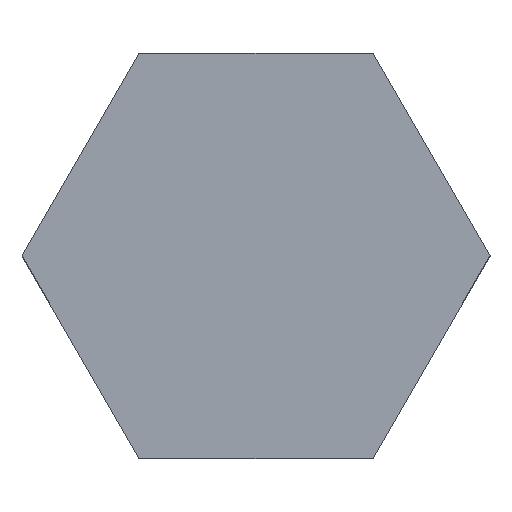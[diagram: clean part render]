
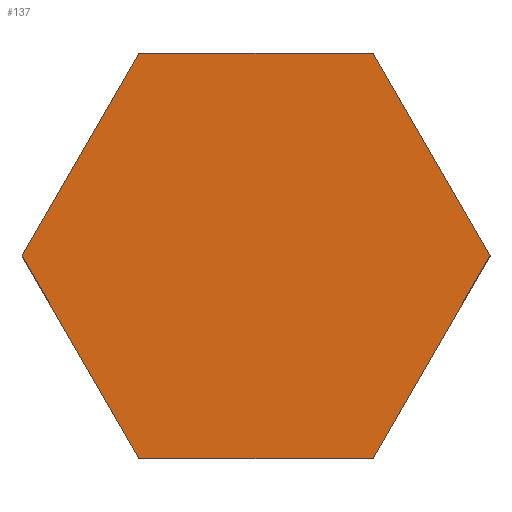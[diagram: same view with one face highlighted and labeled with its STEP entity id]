
A CAD part, top view. The second image highlights one B-rep face of the part: STEP entity #137.
In plain terms, the highlighted planar face has unit normal (0, 0, 1).
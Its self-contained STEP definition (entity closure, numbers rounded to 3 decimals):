
#24 = VERTEX_POINT('',#25);
#25 = CARTESIAN_POINT('',(4.619,0.,3.5));
#32 = PLANE('',#33);
#33 = AXIS2_PLACEMENT_3D('',#34,#35,#36);
#34 = CARTESIAN_POINT('',(4.619,0.,0.));
#35 = DIRECTION('',(-0.866,-0.5,0.));
#36 = DIRECTION('',(-0.5,0.866,0.));
#44 = PLANE('',#45);
#45 = AXIS2_PLACEMENT_3D('',#46,#47,#48);
#46 = CARTESIAN_POINT('',(2.309,-4.,0.));
#47 = DIRECTION('',(-0.866,0.5,0.));
#48 = DIRECTION('',(0.5,0.866,0.));
#56 = EDGE_CURVE('',#24,#57,#59,.T.);
#57 = VERTEX_POINT('',#58);
#58 = CARTESIAN_POINT('',(2.309,4.,3.5));
#59 = SURFACE_CURVE('',#60,(#64,#71),.PCURVE_S1.);
#60 = LINE('',#61,#62);
#61 = CARTESIAN_POINT('',(4.619,0.,3.5));
#62 = VECTOR('',#63,1.);
#63 = DIRECTION('',(-0.5,0.866,0.));
#64 = PCURVE('',#32,#65);
#65 = DEFINITIONAL_REPRESENTATION('',(#66),#70);
#66 = LINE('',#67,#68);
#67 = CARTESIAN_POINT('',(0.,-3.5));
#68 = VECTOR('',#69,1.);
#69 = DIRECTION('',(1.,0.));
#70 = ( GEOMETRIC_REPRESENTATION_CONTEXT(2) 
PARAMETRIC_REPRESENTATION_CONTEXT() REPRESENTATION_CONTEXT('2D SPACE',''
  ) );
#71 = PCURVE('',#72,#77);
#72 = PLANE('',#73);
#73 = AXIS2_PLACEMENT_3D('',#74,#75,#76);
#74 = CARTESIAN_POINT('',(0.,0.,3.5));
#75 = DIRECTION('',(0.,0.,1.));
#76 = DIRECTION('',(1.,0.,-0.));
#77 = DEFINITIONAL_REPRESENTATION('',(#78),#82);
#78 = LINE('',#79,#80);
#79 = CARTESIAN_POINT('',(4.619,0.));
#80 = VECTOR('',#81,1.);
#81 = DIRECTION('',(-0.5,0.866));
#82 = ( GEOMETRIC_REPRESENTATION_CONTEXT(2) 
PARAMETRIC_REPRESENTATION_CONTEXT() REPRESENTATION_CONTEXT('2D SPACE',''
  ) );
#100 = PLANE('',#101);
#101 = AXIS2_PLACEMENT_3D('',#102,#103,#104);
#102 = CARTESIAN_POINT('',(2.309,4.,0.));
#103 = DIRECTION('',(0.,-1.,0.));
#104 = DIRECTION('',(-1.,0.,0.));
#137 = ADVANCED_FACE('',(#138),#72,.T.);
#138 = FACE_BOUND('',#139,.T.);
#139 = EDGE_LOOP('',(#140,#141,#164,#192,#220,#248));
#140 = ORIENTED_EDGE('',*,*,#56,.T.);
#141 = ORIENTED_EDGE('',*,*,#142,.T.);
#142 = EDGE_CURVE('',#57,#143,#145,.T.);
#143 = VERTEX_POINT('',#144);
#144 = CARTESIAN_POINT('',(-2.309,4.,3.5));
#145 = SURFACE_CURVE('',#146,(#150,#157),.PCURVE_S1.);
#146 = LINE('',#147,#148);
#147 = CARTESIAN_POINT('',(2.309,4.,3.5));
#148 = VECTOR('',#149,1.);
#149 = DIRECTION('',(-1.,0.,0.));
#150 = PCURVE('',#72,#151);
#151 = DEFINITIONAL_REPRESENTATION('',(#152),#156);
#152 = LINE('',#153,#154);
#153 = CARTESIAN_POINT('',(2.309,4.));
#154 = VECTOR('',#155,1.);
#155 = DIRECTION('',(-1.,0.));
#156 = ( GEOMETRIC_REPRESENTATION_CONTEXT(2) 
PARAMETRIC_REPRESENTATION_CONTEXT() REPRESENTATION_CONTEXT('2D SPACE',''
  ) );
#157 = PCURVE('',#100,#158);
#158 = DEFINITIONAL_REPRESENTATION('',(#159),#163);
#159 = LINE('',#160,#161);
#160 = CARTESIAN_POINT('',(0.,-3.5));
#161 = VECTOR('',#162,1.);
#162 = DIRECTION('',(1.,0.));
#163 = ( GEOMETRIC_REPRESENTATION_CONTEXT(2) 
PARAMETRIC_REPRESENTATION_CONTEXT() REPRESENTATION_CONTEXT('2D SPACE',''
  ) );
#164 = ORIENTED_EDGE('',*,*,#165,.T.);
#165 = EDGE_CURVE('',#143,#166,#168,.T.);
#166 = VERTEX_POINT('',#167);
#167 = CARTESIAN_POINT('',(-4.619,0.,3.5));
#168 = SURFACE_CURVE('',#169,(#173,#180),.PCURVE_S1.);
#169 = LINE('',#170,#171);
#170 = CARTESIAN_POINT('',(-2.309,4.,3.5));
#171 = VECTOR('',#172,1.);
#172 = DIRECTION('',(-0.5,-0.866,0.));
#173 = PCURVE('',#72,#174);
#174 = DEFINITIONAL_REPRESENTATION('',(#175),#179);
#175 = LINE('',#176,#177);
#176 = CARTESIAN_POINT('',(-2.309,4.));
#177 = VECTOR('',#178,1.);
#178 = DIRECTION('',(-0.5,-0.866));
#179 = ( GEOMETRIC_REPRESENTATION_CONTEXT(2) 
PARAMETRIC_REPRESENTATION_CONTEXT() REPRESENTATION_CONTEXT('2D SPACE',''
  ) );
#180 = PCURVE('',#181,#186);
#181 = PLANE('',#182);
#182 = AXIS2_PLACEMENT_3D('',#183,#184,#185);
#183 = CARTESIAN_POINT('',(-2.309,4.,0.));
#184 = DIRECTION('',(0.866,-0.5,0.));
#185 = DIRECTION('',(-0.5,-0.866,0.));
#186 = DEFINITIONAL_REPRESENTATION('',(#187),#191);
#187 = LINE('',#188,#189);
#188 = CARTESIAN_POINT('',(0.,-3.5));
#189 = VECTOR('',#190,1.);
#190 = DIRECTION('',(1.,0.));
#191 = ( GEOMETRIC_REPRESENTATION_CONTEXT(2) 
PARAMETRIC_REPRESENTATION_CONTEXT() REPRESENTATION_CONTEXT('2D SPACE',''
  ) );
#192 = ORIENTED_EDGE('',*,*,#193,.T.);
#193 = EDGE_CURVE('',#166,#194,#196,.T.);
#194 = VERTEX_POINT('',#195);
#195 = CARTESIAN_POINT('',(-2.309,-4.,3.5));
#196 = SURFACE_CURVE('',#197,(#201,#208),.PCURVE_S1.);
#197 = LINE('',#198,#199);
#198 = CARTESIAN_POINT('',(-4.619,0.,3.5));
#199 = VECTOR('',#200,1.);
#200 = DIRECTION('',(0.5,-0.866,0.));
#201 = PCURVE('',#72,#202);
#202 = DEFINITIONAL_REPRESENTATION('',(#203),#207);
#203 = LINE('',#204,#205);
#204 = CARTESIAN_POINT('',(-4.619,0.));
#205 = VECTOR('',#206,1.);
#206 = DIRECTION('',(0.5,-0.866));
#207 = ( GEOMETRIC_REPRESENTATION_CONTEXT(2) 
PARAMETRIC_REPRESENTATION_CONTEXT() REPRESENTATION_CONTEXT('2D SPACE',''
  ) );
#208 = PCURVE('',#209,#214);
#209 = PLANE('',#210);
#210 = AXIS2_PLACEMENT_3D('',#211,#212,#213);
#211 = CARTESIAN_POINT('',(-4.619,0.,0.));
#212 = DIRECTION('',(0.866,0.5,-0.));
#213 = DIRECTION('',(0.5,-0.866,0.));
#214 = DEFINITIONAL_REPRESENTATION('',(#215),#219);
#215 = LINE('',#216,#217);
#216 = CARTESIAN_POINT('',(0.,-3.5));
#217 = VECTOR('',#218,1.);
#218 = DIRECTION('',(1.,0.));
#219 = ( GEOMETRIC_REPRESENTATION_CONTEXT(2) 
PARAMETRIC_REPRESENTATION_CONTEXT() REPRESENTATION_CONTEXT('2D SPACE',''
  ) );
#220 = ORIENTED_EDGE('',*,*,#221,.T.);
#221 = EDGE_CURVE('',#194,#222,#224,.T.);
#222 = VERTEX_POINT('',#223);
#223 = CARTESIAN_POINT('',(2.309,-4.,3.5));
#224 = SURFACE_CURVE('',#225,(#229,#236),.PCURVE_S1.);
#225 = LINE('',#226,#227);
#226 = CARTESIAN_POINT('',(-2.309,-4.,3.5));
#227 = VECTOR('',#228,1.);
#228 = DIRECTION('',(1.,0.,0.));
#229 = PCURVE('',#72,#230);
#230 = DEFINITIONAL_REPRESENTATION('',(#231),#235);
#231 = LINE('',#232,#233);
#232 = CARTESIAN_POINT('',(-2.309,-4.));
#233 = VECTOR('',#234,1.);
#234 = DIRECTION('',(1.,0.));
#235 = ( GEOMETRIC_REPRESENTATION_CONTEXT(2) 
PARAMETRIC_REPRESENTATION_CONTEXT() REPRESENTATION_CONTEXT('2D SPACE',''
  ) );
#236 = PCURVE('',#237,#242);
#237 = PLANE('',#238);
#238 = AXIS2_PLACEMENT_3D('',#239,#240,#241);
#239 = CARTESIAN_POINT('',(-2.309,-4.,0.));
#240 = DIRECTION('',(0.,1.,0.));
#241 = DIRECTION('',(1.,0.,0.));
#242 = DEFINITIONAL_REPRESENTATION('',(#243),#247);
#243 = LINE('',#244,#245);
#244 = CARTESIAN_POINT('',(0.,-3.5));
#245 = VECTOR('',#246,1.);
#246 = DIRECTION('',(1.,0.));
#247 = ( GEOMETRIC_REPRESENTATION_CONTEXT(2) 
PARAMETRIC_REPRESENTATION_CONTEXT() REPRESENTATION_CONTEXT('2D SPACE',''
  ) );
#248 = ORIENTED_EDGE('',*,*,#249,.T.);
#249 = EDGE_CURVE('',#222,#24,#250,.T.);
#250 = SURFACE_CURVE('',#251,(#255,#262),.PCURVE_S1.);
#251 = LINE('',#252,#253);
#252 = CARTESIAN_POINT('',(2.309,-4.,3.5));
#253 = VECTOR('',#254,1.);
#254 = DIRECTION('',(0.5,0.866,0.));
#255 = PCURVE('',#72,#256);
#256 = DEFINITIONAL_REPRESENTATION('',(#257),#261);
#257 = LINE('',#258,#259);
#258 = CARTESIAN_POINT('',(2.309,-4.));
#259 = VECTOR('',#260,1.);
#260 = DIRECTION('',(0.5,0.866));
#261 = ( GEOMETRIC_REPRESENTATION_CONTEXT(2) 
PARAMETRIC_REPRESENTATION_CONTEXT() REPRESENTATION_CONTEXT('2D SPACE',''
  ) );
#262 = PCURVE('',#44,#263);
#263 = DEFINITIONAL_REPRESENTATION('',(#264),#268);
#264 = LINE('',#265,#266);
#265 = CARTESIAN_POINT('',(0.,-3.5));
#266 = VECTOR('',#267,1.);
#267 = DIRECTION('',(1.,0.));
#268 = ( GEOMETRIC_REPRESENTATION_CONTEXT(2) 
PARAMETRIC_REPRESENTATION_CONTEXT() REPRESENTATION_CONTEXT('2D SPACE',''
  ) );
